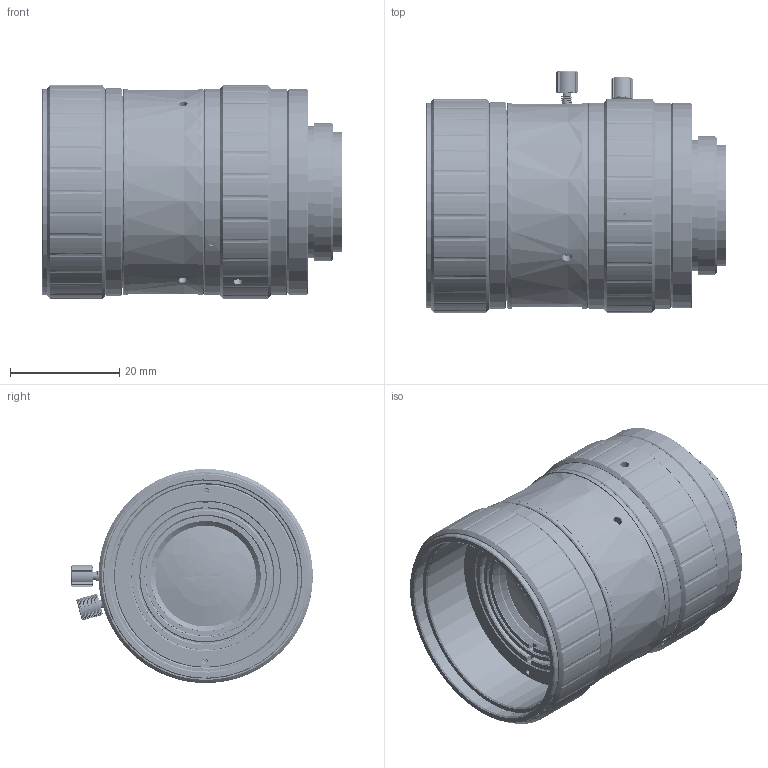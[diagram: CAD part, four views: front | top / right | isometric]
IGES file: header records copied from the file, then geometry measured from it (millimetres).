
Start section: SolidWorks IGES file using analytic representation for surfaces
Global section: file name: 2HF:\产品\产品图\90本公司\MJ9943xx12\MJ994335120\装配\总装\MJ994335121总装\QM994335121总装.IGS; native system: SolidWorks 2018; preprocessor: SolidWorks 2018; author: hai; date: 231205.124643; units: millimetre
Bounding box: 55.09 x 44.2 x 39.19 mm (x, y, z)
Surface area: 40632.6 mm2 (no closed solid volume)
Topology: 0 solids, 0 shells, 1682 faces, 20433 edges, 20411 vertices
Faces by surface type: revolution 1028, bspline 654
